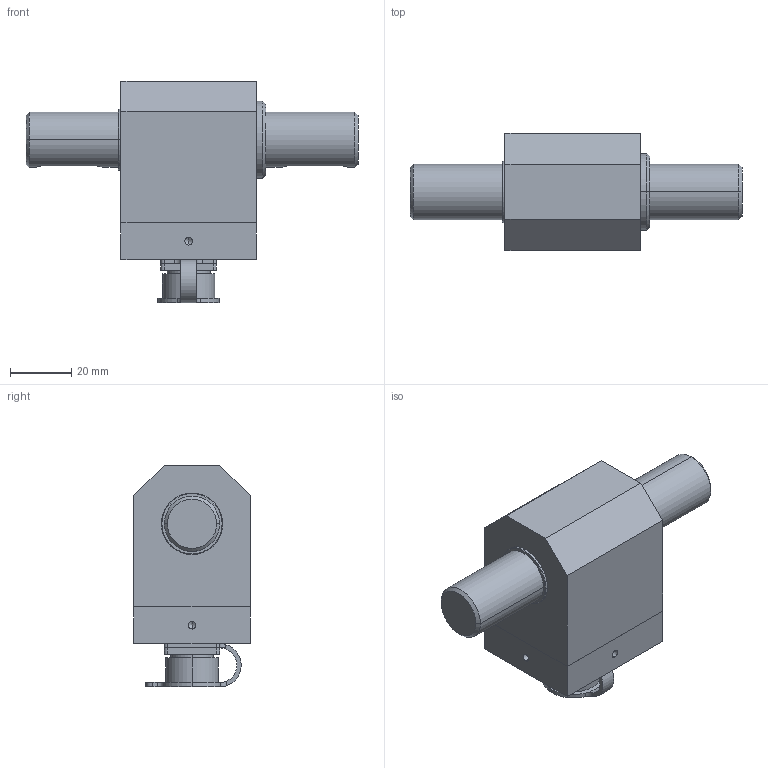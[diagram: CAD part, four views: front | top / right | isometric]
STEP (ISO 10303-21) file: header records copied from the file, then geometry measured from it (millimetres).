
FILE_DESCRIPTION (( 'STEP AP214' ), '1' );
FILE_NAME ('WTQ-1050A-3D俋倛芞.STEP', '2019-11-05T02:43:41', ( '' ), ( '' ), 'SwSTEP 2.0', 'SolidWorks 2014', '' );
FILE_SCHEMA (( 'AUTOMOTIVE_DESIGN' ));
Length unit declared in the file: millimetre
Products named in the file (4): 瑤脣奻裔; 瑤脣-聾撻; WTQ-1050A-3Dͼ; WTQ-1050A-3D俋倛芞
Assembly tree (3 placements, depth 2):
  WTQ-1050A-3D俋倛芞
    WTQ-1050A-3Dͼ
    瑤脣-聾撻
    瑤脣奻裔
Bounding box: 108 x 38 x 72 mm (x, y, z)
Volume: 109896.7 mm3; surface area: 25055.2 mm2
Topology: 4 solids, 5 shells, 209 faces, 495 edges, 319 vertices
Faces by surface type: cylinder 124, plane 67, cone 18
Entity records: 7066 total; most frequent: CARTESIAN_POINT 1198, DIRECTION 1154, ORIENTED_EDGE 974, EDGE_CURVE 487, AXIS2_PLACEMENT_3D 465, VERTEX_POINT 319, EDGE_LOOP 276, CIRCLE 250
